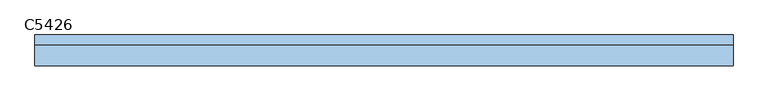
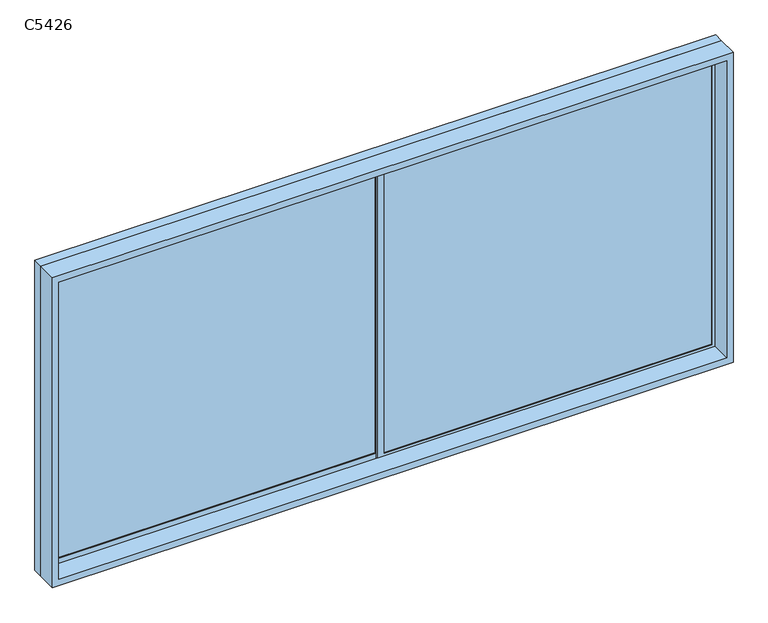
"""IFC4 building model written with IfcOpenShell, lengths in millimetres: window geometry, 推拉窗6 : C5426."""

from ifc_helpers import new_model, si_unit, frame, origin, place, context, project, spatial, polyline, outline, extrude, source, transform, mapped, element, save


def c5426_8dc2f223(model_context):
    return source(origin(), model_context, "Body", "SweptSolid", [
        extrude(outline(polyline([(-2615.475, 23.1265625), (-15.475, 23.1265625), (-15.475, 13.1265625), (-2615.475, 13.1265625), (-2615.475, 23.1265625)])), frame((0.0, 0.0, 675.0), z_axis=(0.0, 0.0, 1.0), x_axis=(1.0, 0.0, 0.0)), (0.0, 0.0, 1.0), 2450.0),
        extrude(outline(polyline([(34.525, -6.8734375), (2634.525, -6.8734375), (2634.525, -16.8734375), (34.525, -16.8734375), (34.525, -6.8734375)])), frame((0.0, 0.0, 675.0), z_axis=(0.0, 0.0, 1.0), x_axis=(1.0, 0.0, 0.0)), (0.0, 0.0, 1.0), 2450.0),
        extrude(outline(polyline([(3200.0, -2690.475), (600.0, -2690.475), (600.0, 2709.525), (3200.0, 2709.525), (3200.0, -2690.475)]), holes=[polyline([(3145.0, 2659.525), (655.0, 2659.525), (655.0, -2640.475), (3145.0, -2640.475), (3145.0, 2659.525)])]), frame((0.0, -186.8734375, 0.0), z_axis=(0.0, 1.0, 0.0), x_axis=(0.0, 0.0, 1.0)), (0.0, 0.0, 1.0), 160.0),
        extrude(outline(polyline([(625.0, 34.525), (3175.0, 34.525), (3175.0, -2665.475), (625.0, -2665.475), (625.0, 34.525)]), holes=[polyline([(675.0, -15.475), (675.0, -2615.475), (3125.0, -2615.475), (3125.0, -15.475), (675.0, -15.475)])]), frame((0.0, 3.1265625, 0.0), z_axis=(0.0, 1.0, 0.0), x_axis=(0.0, 0.0, 1.0)), (0.0, 0.0, 1.0), 30.0),
        extrude(outline(polyline([(3175.0, -15.475), (625.0, -15.475), (625.0, 2684.525), (3175.0, 2684.525), (3175.0, -15.475)]), holes=[polyline([(3125.0, 34.525), (3125.0, 2634.525), (675.0, 2634.525), (675.0, 34.525), (3125.0, 34.525)])]), frame((0.0, -26.8734375, 0.0), z_axis=(0.0, 1.0, 0.0), x_axis=(0.0, 0.0, 1.0)), (0.0, 0.0, 1.0), 30.0),
        extrude(outline(polyline([(3200.0, -2690.475), (600.0, -2690.475), (600.0, 2709.525), (3200.0, 2709.525), (3200.0, -2690.475)]), holes=[polyline([(625.0, -2665.475), (3175.0, -2665.475), (3175.0, 2684.525), (625.0, 2684.525), (625.0, -2665.475)])]), frame((0.0, -26.8734375, 0.0), z_axis=(0.0, 1.0, 0.0), x_axis=(0.0, 0.0, 1.0)), (0.0, 0.0, 1.0), 80.0),
    ])


if __name__ == "__main__":
    model = new_model("IFC4")
    model_context = context("Model", 3, world=origin())
    ifc_project = project(units=[si_unit("LENGTHUNIT", "METRE", prefix="MILLI")], contexts=[model_context])
    site = spatial("IfcSite", under=ifc_project)
    building = spatial("IfcBuilding", under=site)
    placement = place(None, origin())
    c5426_shape = c5426_8dc2f223(model_context)
    element("IfcWindow", 1, ObjectType="推拉窗6 : C5426", at=placement, inside=building, context=model_context, shape_type="MappedRepresentation", body=[
        mapped(c5426_shape, transform((0.0, 0.0, 0.0), x_axis=(1.0, 0.0, 0.0), y_axis=(0.0, 1.0, 0.0), z_axis=(0.0, 0.0, 1.0))),
    ])
    save(model, "model.ifc")
